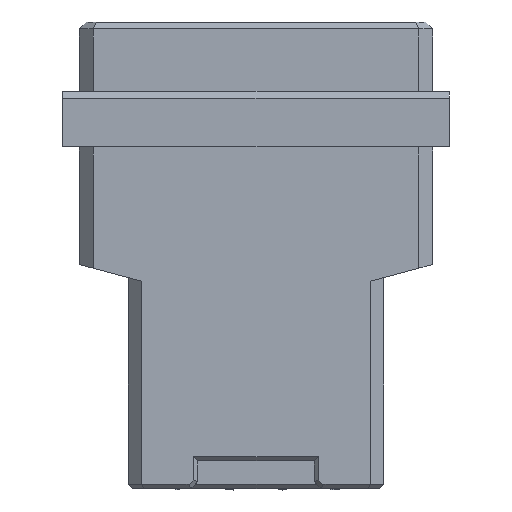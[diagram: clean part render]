
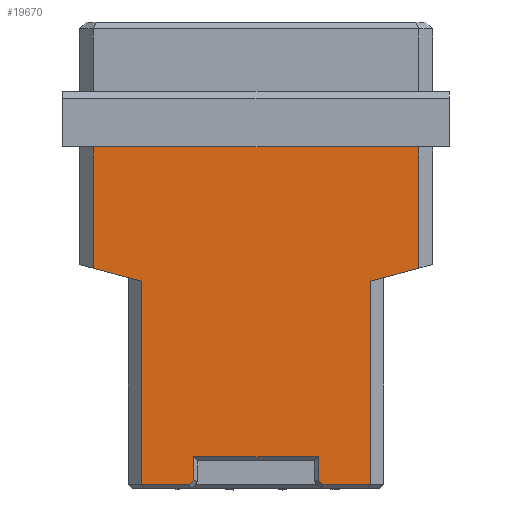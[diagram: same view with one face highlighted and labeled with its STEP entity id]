
A CAD part, front view. The second image highlights one B-rep face of the part: STEP entity #19670.
In plain terms, the highlighted planar face has unit normal (0, -1, 0).
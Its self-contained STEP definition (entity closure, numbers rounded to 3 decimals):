
#313 = VERTEX_POINT ( 'NONE', #23148 ) ;
#366 = EDGE_CURVE ( 'NONE', #6694, #6556, #13632, .T. ) ;
#485 = VERTEX_POINT ( 'NONE', #1915 ) ;
#624 = VERTEX_POINT ( 'NONE', #14871 ) ;
#951 = VECTOR ( 'NONE', #13577, 1000. ) ;
#1053 = LINE ( 'NONE', #2630, #21994 ) ;
#1182 = CARTESIAN_POINT ( 'NONE',  ( 4.824, -4.675, -33.3 ) ) ;
#1237 = CARTESIAN_POINT ( 'NONE',  ( 11.715, -4.675, -9. ) ) ;
#1526 = LINE ( 'NONE', #8075, #951 ) ;
#1559 = VECTOR ( 'NONE', #9840, 1000. ) ;
#1775 = CARTESIAN_POINT ( 'NONE',  ( -4.5, -4.675, -31.3 ) ) ;
#1784 = ORIENTED_EDGE ( 'NONE', *, *, #9089, .T. ) ;
#1836 = VERTEX_POINT ( 'NONE', #6600 ) ;
#1837 = ORIENTED_EDGE ( 'NONE', *, *, #1998, .T. ) ;
#1915 = CARTESIAN_POINT ( 'NONE',  ( -11.715, -4.675, -9. ) ) ;
#1998 = EDGE_CURVE ( 'NONE', #17038, #14319, #13568, .T. ) ;
#2393 = DIRECTION ( 'NONE',  ( 0.966, 0., -0.259 ) ) ;
#2530 = ORIENTED_EDGE ( 'NONE', *, *, #15883, .T. ) ;
#2630 = CARTESIAN_POINT ( 'NONE',  ( 4.912, -4.675, -33.388 ) ) ;
#2636 = EDGE_CURVE ( 'NONE', #313, #6694, #1053, .T. ) ;
#2959 = LINE ( 'NONE', #14384, #14601 ) ;
#3165 = ORIENTED_EDGE ( 'NONE', *, *, #12099, .T. ) ;
#3300 = VECTOR ( 'NONE', #5791, 1000. ) ;
#3422 = FACE_OUTER_BOUND ( 'NONE', #16896, .T. ) ;
#3811 = VERTEX_POINT ( 'NONE', #4817 ) ;
#3912 = LINE ( 'NONE', #17581, #21194 ) ;
#4493 = ORIENTED_EDGE ( 'NONE', *, *, #366, .T. ) ;
#4817 = CARTESIAN_POINT ( 'NONE',  ( -8.215, -4.675, -33.3 ) ) ;
#4881 = ORIENTED_EDGE ( 'NONE', *, *, #21269, .T. ) ;
#4910 = LINE ( 'NONE', #22174, #17895 ) ;
#5255 = CARTESIAN_POINT ( 'NONE',  ( 8.215, -4.675, -18.668 ) ) ;
#5393 = PLANE ( 'NONE',  #22892 ) ;
#5585 = ORIENTED_EDGE ( 'NONE', *, *, #6182, .T. ) ;
#5791 = DIRECTION ( 'NONE',  ( 1., 0., 0. ) ) ;
#6182 = EDGE_CURVE ( 'NONE', #23274, #1836, #18707, .T. ) ;
#6243 = ORIENTED_EDGE ( 'NONE', *, *, #11736, .T. ) ;
#6250 = DIRECTION ( 'NONE',  ( 0.707, 0., -0.707 ) ) ;
#6556 = VERTEX_POINT ( 'NONE', #7844 ) ;
#6600 = CARTESIAN_POINT ( 'NONE',  ( -8.215, -4.675, -18.668 ) ) ;
#6618 = LINE ( 'NONE', #19511, #14345 ) ;
#6694 = VERTEX_POINT ( 'NONE', #1182 ) ;
#6975 = DIRECTION ( 'NONE',  ( 0., 0., -1. ) ) ;
#7170 = VECTOR ( 'NONE', #8693, 1000. ) ;
#7679 = DIRECTION ( 'NONE',  ( 0.966, 0., 0.259 ) ) ;
#7844 = CARTESIAN_POINT ( 'NONE',  ( 8.215, -4.675, -33.3 ) ) ;
#8018 = ORIENTED_EDGE ( 'NONE', *, *, #14668, .T. ) ;
#8075 = CARTESIAN_POINT ( 'NONE',  ( 11.715, -4.675, -18.4 ) ) ;
#8077 = LINE ( 'NONE', #16807, #1559 ) ;
#8208 = VECTOR ( 'NONE', #23308, 1000. ) ;
#8280 = VERTEX_POINT ( 'NONE', #5255 ) ;
#8693 = DIRECTION ( 'NONE',  ( 0., 0., 1. ) ) ;
#9089 = EDGE_CURVE ( 'NONE', #20613, #485, #16322, .T. ) ;
#9375 = CARTESIAN_POINT ( 'NONE',  ( -12.481, -4.675, -17.525 ) ) ;
#9840 = DIRECTION ( 'NONE',  ( 1., 0., 0. ) ) ;
#10043 = CARTESIAN_POINT ( 'NONE',  ( -11.715, -4.675, -17.73 ) ) ;
#10629 = CARTESIAN_POINT ( 'NONE',  ( -4.824, -4.675, -33.3 ) ) ;
#10704 = DIRECTION ( 'NONE',  ( 0., 0., -1. ) ) ;
#10769 = VERTEX_POINT ( 'NONE', #19218 ) ;
#10840 = ORIENTED_EDGE ( 'NONE', *, *, #16151, .T. ) ;
#11248 = LINE ( 'NONE', #20844, #3300 ) ;
#11736 = EDGE_CURVE ( 'NONE', #14319, #12816, #2959, .T. ) ;
#12099 = EDGE_CURVE ( 'NONE', #10769, #20613, #1526, .T. ) ;
#12278 = DIRECTION ( 'NONE',  ( -1., 0., 0. ) ) ;
#12562 = CARTESIAN_POINT ( 'NONE',  ( -12.715, -4.675, -33.3 ) ) ;
#12816 = VERTEX_POINT ( 'NONE', #1775 ) ;
#13394 = EDGE_CURVE ( 'NONE', #624, #313, #3912, .T. ) ;
#13568 = LINE ( 'NONE', #20241, #20618 ) ;
#13577 = DIRECTION ( 'NONE',  ( 0., 0., 1. ) ) ;
#13632 = LINE ( 'NONE', #12562, #8208 ) ;
#14060 = LINE ( 'NONE', #14446, #17386 ) ;
#14285 = ORIENTED_EDGE ( 'NONE', *, *, #15679, .T. ) ;
#14319 = VERTEX_POINT ( 'NONE', #15801 ) ;
#14345 = VECTOR ( 'NONE', #6975, 1000. ) ;
#14384 = CARTESIAN_POINT ( 'NONE',  ( -4.5, -4.675, -18.4 ) ) ;
#14389 = VECTOR ( 'NONE', #12278, 1000. ) ;
#14446 = CARTESIAN_POINT ( 'NONE',  ( -8.215, -4.675, -18.4 ) ) ;
#14601 = VECTOR ( 'NONE', #21396, 1000. ) ;
#14668 = EDGE_CURVE ( 'NONE', #12816, #624, #11248, .T. ) ;
#14871 = CARTESIAN_POINT ( 'NONE',  ( 4.5, -4.675, -31.3 ) ) ;
#15316 = ORIENTED_EDGE ( 'NONE', *, *, #2636, .T. ) ;
#15679 = EDGE_CURVE ( 'NONE', #485, #23274, #6618, .T. ) ;
#15801 = CARTESIAN_POINT ( 'NONE',  ( -4.5, -4.675, -32.976 ) ) ;
#15883 = EDGE_CURVE ( 'NONE', #3811, #17038, #8077, .T. ) ;
#15891 = CARTESIAN_POINT ( 'NONE',  ( -12.715, -4.675, -9. ) ) ;
#16151 = EDGE_CURVE ( 'NONE', #1836, #3811, #14060, .T. ) ;
#16322 = LINE ( 'NONE', #15891, #14389 ) ;
#16355 = DIRECTION ( 'NONE',  ( 0.707, 0., 0.707 ) ) ;
#16563 = EDGE_CURVE ( 'NONE', #6556, #8280, #19945, .T. ) ;
#16807 = CARTESIAN_POINT ( 'NONE',  ( -12.715, -4.675, -33.3 ) ) ;
#16896 = EDGE_LOOP ( 'NONE', ( #10840, #2530, #1837, #6243, #8018, #19281, #15316, #4493, #20124, #4881, #3165, #1784, #14285, #5585 ) ) ;
#17038 = VERTEX_POINT ( 'NONE', #10629 ) ;
#17386 = VECTOR ( 'NONE', #10704, 1000. ) ;
#17581 = CARTESIAN_POINT ( 'NONE',  ( 4.5, -4.675, -18.4 ) ) ;
#17895 = VECTOR ( 'NONE', #7679, 1000. ) ;
#18062 = CARTESIAN_POINT ( 'NONE',  ( -12.715, -4.675, -18.4 ) ) ;
#18707 = LINE ( 'NONE', #9375, #19847 ) ;
#19218 = CARTESIAN_POINT ( 'NONE',  ( 11.715, -4.675, -17.73 ) ) ;
#19281 = ORIENTED_EDGE ( 'NONE', *, *, #13394, .T. ) ;
#19409 = DIRECTION ( 'NONE',  ( 0., 0., -1. ) ) ;
#19511 = CARTESIAN_POINT ( 'NONE',  ( -11.715, -4.675, -18.4 ) ) ;
#19670 = ADVANCED_FACE ( 'NONE', ( #3422 ), #5393, .F. ) ;
#19847 = VECTOR ( 'NONE', #2393, 1000. ) ;
#19945 = LINE ( 'NONE', #23099, #7170 ) ;
#19967 = DIRECTION ( 'NONE',  ( 0., 1., 0. ) ) ;
#20044 = DIRECTION ( 'NONE',  ( 0., 0., 1. ) ) ;
#20124 = ORIENTED_EDGE ( 'NONE', *, *, #16563, .T. ) ;
#20241 = CARTESIAN_POINT ( 'NONE',  ( -4.412, -4.675, -32.888 ) ) ;
#20613 = VERTEX_POINT ( 'NONE', #1237 ) ;
#20618 = VECTOR ( 'NONE', #16355, 1000. ) ;
#20844 = CARTESIAN_POINT ( 'NONE',  ( -12.715, -4.675, -31.3 ) ) ;
#21194 = VECTOR ( 'NONE', #19409, 1000. ) ;
#21269 = EDGE_CURVE ( 'NONE', #8280, #10769, #4910, .T. ) ;
#21396 = DIRECTION ( 'NONE',  ( 0., 0., 1. ) ) ;
#21994 = VECTOR ( 'NONE', #6250, 1000. ) ;
#22174 = CARTESIAN_POINT ( 'NONE',  ( -11.246, -4.675, -23.883 ) ) ;
#22892 = AXIS2_PLACEMENT_3D ( 'NONE', #18062, #19967, #20044 ) ;
#23099 = CARTESIAN_POINT ( 'NONE',  ( 8.215, -4.675, -18.4 ) ) ;
#23148 = CARTESIAN_POINT ( 'NONE',  ( 4.5, -4.675, -32.976 ) ) ;
#23274 = VERTEX_POINT ( 'NONE', #10043 ) ;
#23308 = DIRECTION ( 'NONE',  ( 1., 0., 0. ) ) ;
